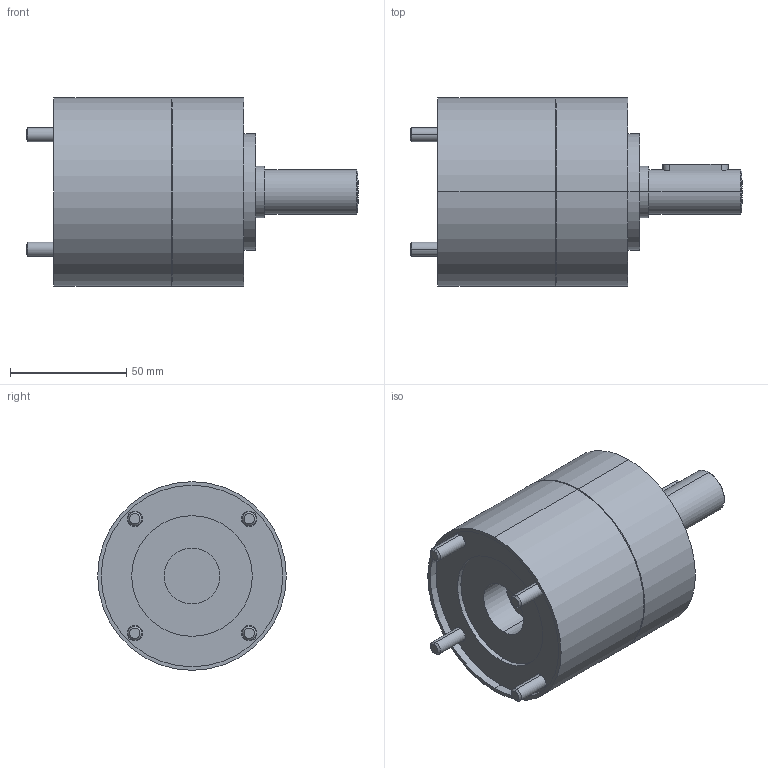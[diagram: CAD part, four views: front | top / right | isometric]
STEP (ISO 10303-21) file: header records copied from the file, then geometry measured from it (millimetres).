
FILE_DESCRIPTION (( 'STEP AP214' ), '1' );
FILE_NAME ('PM80_2stufig.STEP', '2012-09-19T12:44:29', ( ' ' ), ( '' ), 'SwSTEP 2.0', 'SolidWorks 2010', '' );
FILE_SCHEMA (( 'AUTOMOTIVE_DESIGN' ));
Length unit declared in the file: millimetre
Products named in the file (1): PM80_2stufig
Bounding box: 142.6 x 81 x 81 mm (x, y, z)
Volume: 413761 mm3; surface area: 52344 mm2
Topology: 1 solids, 1 shells, 161 faces, 348 edges, 211 vertices
Faces by surface type: cylinder 62, plane 55, cone 36, torus 8
Entity records: 5511 total; most frequent: DIRECTION 820, CARTESIAN_POINT 773, ORIENTED_EDGE 676, EDGE_CURVE 338, AXIS2_PLACEMENT_3D 322, VERTEX_POINT 211, EDGE_LOOP 193, LINE 176
